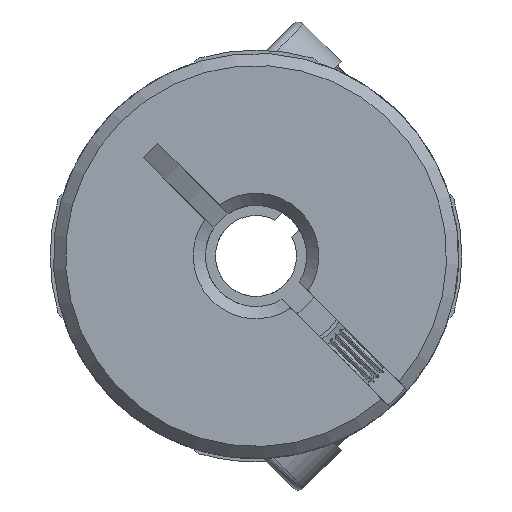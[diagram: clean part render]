
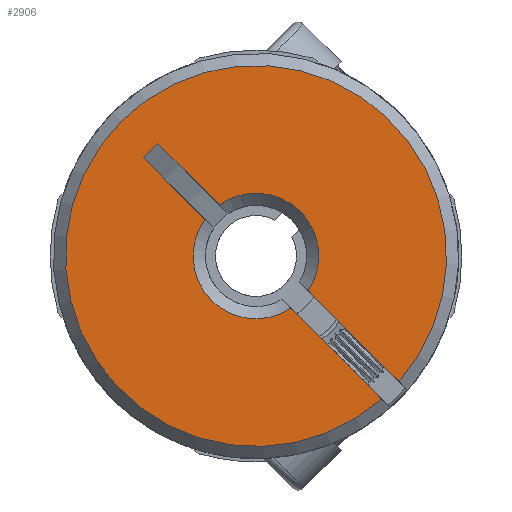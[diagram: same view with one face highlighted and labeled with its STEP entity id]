
A CAD part, front view. The second image highlights one B-rep face of the part: STEP entity #2906.
In plain terms, the highlighted planar face has unit normal (0, -1, 0).
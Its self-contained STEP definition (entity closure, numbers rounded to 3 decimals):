
#126 = FACE_OUTER_BOUND ( 'NONE', #9951, .T. ) ;
#381 = CARTESIAN_POINT ( 'NONE',  ( -5.549, -12.6, 4.842 ) ) ;
#580 = EDGE_CURVE ( 'NONE', #4683, #6775, #5905, .T. ) ;
#790 = CIRCLE ( 'NONE', #7298, 9.4 ) ;
#910 = EDGE_CURVE ( 'NONE', #6348, #6731, #4323, .T. ) ;
#1125 = ORIENTED_EDGE ( 'NONE', *, *, #13083, .T. ) ;
#1155 = AXIS2_PLACEMENT_3D ( 'NONE', #6606, #7641, #6648 ) ;
#1156 = CIRCLE ( 'NONE', #11603, 3.1 ) ;
#1311 = CARTESIAN_POINT ( 'NONE',  ( 2.14, -12.6, -1.292 ) ) ;
#1508 = VERTEX_POINT ( 'NONE', #5247 ) ;
#2022 = EDGE_CURVE ( 'NONE', #1508, #6775, #790, .T. ) ;
#2400 = ORIENTED_EDGE ( 'NONE', *, *, #580, .F. ) ;
#2414 = VERTEX_POINT ( 'NONE', #8904 ) ;
#2421 = VECTOR ( 'NONE', #13135, 1000. ) ;
#2476 = ORIENTED_EDGE ( 'NONE', *, *, #9220, .T. ) ;
#2906 = ADVANCED_FACE ( 'NONE', ( #126 ), #4827, .F. ) ;
#2972 = ORIENTED_EDGE ( 'NONE', *, *, #910, .F. ) ;
#3398 = LINE ( 'NONE', #1311, #3551 ) ;
#3551 = VECTOR ( 'NONE', #5856, 1000. ) ;
#4323 = LINE ( 'NONE', #9078, #2421 ) ;
#4683 = VERTEX_POINT ( 'NONE', #6362 ) ;
#4738 = CARTESIAN_POINT ( 'NONE',  ( 342.528, -12.6, 364.579 ) ) ;
#4752 = EDGE_CURVE ( 'NONE', #6731, #10251, #8537, .T. ) ;
#4787 = CIRCLE ( 'NONE', #1155, 3.1 ) ;
#4805 = DIRECTION ( 'NONE',  ( 0., -1., 0. ) ) ;
#4827 = PLANE ( 'NONE',  #7654 ) ;
#5247 = CARTESIAN_POINT ( 'NONE',  ( 7.058, -12.6, -6.209 ) ) ;
#5285 = CARTESIAN_POINT ( 'NONE',  ( 0., -12.6, 0. ) ) ;
#5856 = DIRECTION ( 'NONE',  ( -0.707, 0., 0.707 ) ) ;
#5905 = LINE ( 'NONE', #7342, #6378 ) ;
#6154 = VECTOR ( 'NONE', #6271, 1000. ) ;
#6271 = DIRECTION ( 'NONE',  ( 0.707, 0., -0.707 ) ) ;
#6314 = VECTOR ( 'NONE', #12582, 1000. ) ;
#6348 = VERTEX_POINT ( 'NONE', #7715 ) ;
#6362 = CARTESIAN_POINT ( 'NONE',  ( 1.726, -12.6, -2.575 ) ) ;
#6378 = VECTOR ( 'NONE', #8493, 1000. ) ;
#6433 = CARTESIAN_POINT ( 'NONE',  ( 5.657, -12.6, -4.95 ) ) ;
#6606 = CARTESIAN_POINT ( 'NONE',  ( 0., -12.6, 0. ) ) ;
#6648 = DIRECTION ( 'NONE',  ( 0.707, 0., -0.707 ) ) ;
#6731 = VERTEX_POINT ( 'NONE', #381 ) ;
#6749 = VERTEX_POINT ( 'NONE', #8495 ) ;
#6775 = VERTEX_POINT ( 'NONE', #8763 ) ;
#7058 = ORIENTED_EDGE ( 'NONE', *, *, #2022, .T. ) ;
#7255 = ORIENTED_EDGE ( 'NONE', *, *, #4752, .F. ) ;
#7298 = AXIS2_PLACEMENT_3D ( 'NONE', #10915, #4805, #12933 ) ;
#7342 = CARTESIAN_POINT ( 'NONE',  ( 1.292, -12.6, -2.14 ) ) ;
#7641 = DIRECTION ( 'NONE',  ( 0., 1., 0. ) ) ;
#7654 = AXIS2_PLACEMENT_3D ( 'NONE', #4738, #12870, #10066 ) ;
#7715 = CARTESIAN_POINT ( 'NONE',  ( -4.842, -12.6, 5.549 ) ) ;
#8431 = EDGE_CURVE ( 'NONE', #1508, #6749, #3398, .T. ) ;
#8493 = DIRECTION ( 'NONE',  ( 0.707, 0., -0.707 ) ) ;
#8495 = CARTESIAN_POINT ( 'NONE',  ( 2.575, -12.6, -1.726 ) ) ;
#8537 = LINE ( 'NONE', #11391, #6154 ) ;
#8763 = CARTESIAN_POINT ( 'NONE',  ( 6.209, -12.6, -7.058 ) ) ;
#8904 = CARTESIAN_POINT ( 'NONE',  ( -1.81, -12.6, 2.517 ) ) ;
#9078 = CARTESIAN_POINT ( 'NONE',  ( -4.842, -12.6, 5.549 ) ) ;
#9220 = EDGE_CURVE ( 'NONE', #2414, #6749, #1156, .T. ) ;
#9257 = DIRECTION ( 'NONE',  ( 0.707, 0., -0.707 ) ) ;
#9351 = DIRECTION ( 'NONE',  ( 0., 1., 0. ) ) ;
#9951 = EDGE_LOOP ( 'NONE', ( #1125, #2476, #11383, #7058, #2400, #12157, #7255, #2972 ) ) ;
#10066 = DIRECTION ( 'NONE',  ( 0.707, 0., -0.707 ) ) ;
#10251 = VERTEX_POINT ( 'NONE', #10486 ) ;
#10301 = EDGE_CURVE ( 'NONE', #4683, #10251, #4787, .T. ) ;
#10462 = LINE ( 'NONE', #6433, #6314 ) ;
#10486 = CARTESIAN_POINT ( 'NONE',  ( -2.517, -12.6, 1.81 ) ) ;
#10915 = CARTESIAN_POINT ( 'NONE',  ( 0., -12.6, 0. ) ) ;
#11383 = ORIENTED_EDGE ( 'NONE', *, *, #8431, .F. ) ;
#11391 = CARTESIAN_POINT ( 'NONE',  ( 4.95, -12.6, -5.657 ) ) ;
#11603 = AXIS2_PLACEMENT_3D ( 'NONE', #5285, #9351, #9257 ) ;
#12157 = ORIENTED_EDGE ( 'NONE', *, *, #10301, .T. ) ;
#12582 = DIRECTION ( 'NONE',  ( 0.707, 0., -0.707 ) ) ;
#12870 = DIRECTION ( 'NONE',  ( 0., 1., 0. ) ) ;
#12933 = DIRECTION ( 'NONE',  ( 0.707, 0., -0.707 ) ) ;
#13083 = EDGE_CURVE ( 'NONE', #6348, #2414, #10462, .T. ) ;
#13135 = DIRECTION ( 'NONE',  ( -0.707, 0., -0.707 ) ) ;
